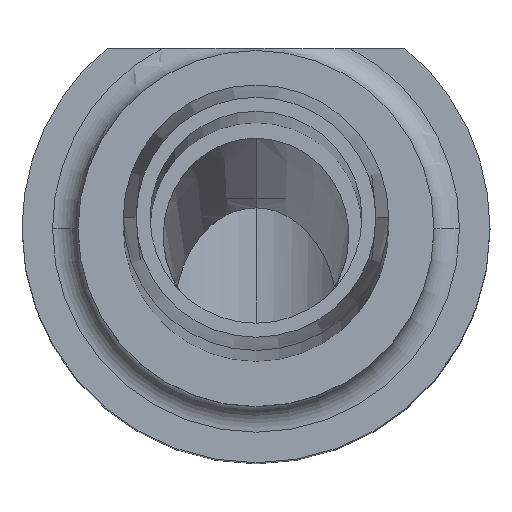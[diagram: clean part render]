
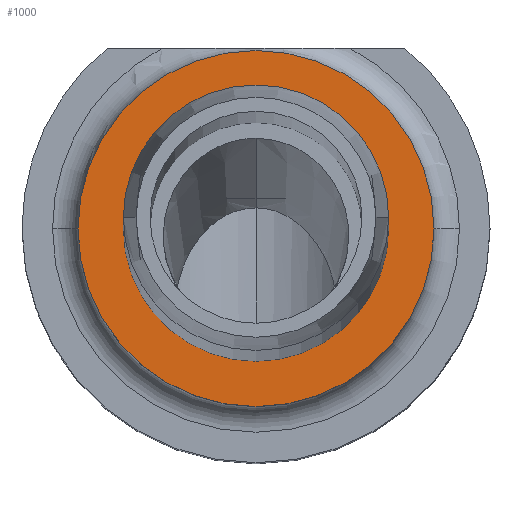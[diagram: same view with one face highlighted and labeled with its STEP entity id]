
A CAD part, top view. The second image highlights one B-rep face of the part: STEP entity #1000.
In plain terms, the highlighted planar face has unit normal (0, 0, 1).
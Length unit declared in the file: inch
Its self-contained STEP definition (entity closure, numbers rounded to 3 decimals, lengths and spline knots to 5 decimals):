
#35 = FACE_OUTER_BOUND ( 'NONE', #1091, .T. ) ;
#41 = ORIENTED_EDGE ( 'NONE', *, *, #548, .T. ) ;
#64 = DIRECTION ( 'NONE',  ( 0., 0., 1. ) ) ;
#65 = ORIENTED_EDGE ( 'NONE', *, *, #1020, .F. ) ;
#90 = DIRECTION ( 'NONE',  ( 0., 0., -1. ) ) ;
#130 = CARTESIAN_POINT ( 'NONE',  ( -0.1565, 0., -7.624 ) ) ;
#145 = VERTEX_POINT ( 'NONE', #1142 ) ;
#170 = EDGE_LOOP ( 'NONE', ( #41, #1181 ) ) ;
#173 = CARTESIAN_POINT ( 'NONE',  ( 0.1565, 0., -7.624 ) ) ;
#222 = EDGE_CURVE ( 'NONE', #1224, #578, #709, .T. ) ;
#268 = DIRECTION ( 'NONE',  ( 1., 0., 0. ) ) ;
#318 = FACE_BOUND ( 'NONE', #170, .T. ) ;
#354 = DIRECTION ( 'NONE',  ( 0., 0., -1. ) ) ;
#378 = CIRCLE ( 'NONE', #440, 0.1565 ) ;
#407 = DIRECTION ( 'NONE',  ( -1., 0., 0. ) ) ;
#434 = AXIS2_PLACEMENT_3D ( 'NONE', #130, #64, #268 ) ;
#440 = AXIS2_PLACEMENT_3D ( 'NONE', #840, #90, #563 ) ;
#453 = DIRECTION ( 'NONE',  ( -1., 0., 0. ) ) ;
#535 = DIRECTION ( 'NONE',  ( -1., 0., 0. ) ) ;
#541 = DIRECTION ( 'NONE',  ( 0., 0., -1. ) ) ;
#548 = EDGE_CURVE ( 'NONE', #145, #793, #378, .T. ) ;
#563 = DIRECTION ( 'NONE',  ( -1., 0., 0. ) ) ;
#578 = VERTEX_POINT ( 'NONE', #773 ) ;
#592 = CARTESIAN_POINT ( 'NONE',  ( 0., 0., -7.624 ) ) ;
#594 = AXIS2_PLACEMENT_3D ( 'NONE', #1094, #354, #535 ) ;
#692 = EDGE_CURVE ( 'NONE', #793, #145, #1111, .T. ) ;
#703 = CIRCLE ( 'NONE', #1220, 0.21 ) ;
#709 = CIRCLE ( 'NONE', #1205, 0.21 ) ;
#773 = CARTESIAN_POINT ( 'NONE',  ( -0.21, 0., -7.624 ) ) ;
#793 = VERTEX_POINT ( 'NONE', #173 ) ;
#840 = CARTESIAN_POINT ( 'NONE',  ( 0., 0., -7.624 ) ) ;
#985 = PLANE ( 'NONE',  #434 ) ;
#1000 = ADVANCED_FACE ( 'NONE', ( #318, #35 ), #985, .T. ) ;
#1004 = CARTESIAN_POINT ( 'NONE',  ( 0., 0., -7.624 ) ) ;
#1020 = EDGE_CURVE ( 'NONE', #578, #1224, #703, .T. ) ;
#1031 = CARTESIAN_POINT ( 'NONE',  ( 0.21, 0., -7.624 ) ) ;
#1064 = DIRECTION ( 'NONE',  ( 0., 0., -1. ) ) ;
#1091 = EDGE_LOOP ( 'NONE', ( #65, #1179 ) ) ;
#1094 = CARTESIAN_POINT ( 'NONE',  ( 0., 0., -7.624 ) ) ;
#1111 = CIRCLE ( 'NONE', #594, 0.1565 ) ;
#1142 = CARTESIAN_POINT ( 'NONE',  ( -0.1565, 0., -7.624 ) ) ;
#1179 = ORIENTED_EDGE ( 'NONE', *, *, #222, .F. ) ;
#1181 = ORIENTED_EDGE ( 'NONE', *, *, #692, .T. ) ;
#1205 = AXIS2_PLACEMENT_3D ( 'NONE', #592, #1064, #407 ) ;
#1220 = AXIS2_PLACEMENT_3D ( 'NONE', #1004, #541, #453 ) ;
#1224 = VERTEX_POINT ( 'NONE', #1031 ) ;
